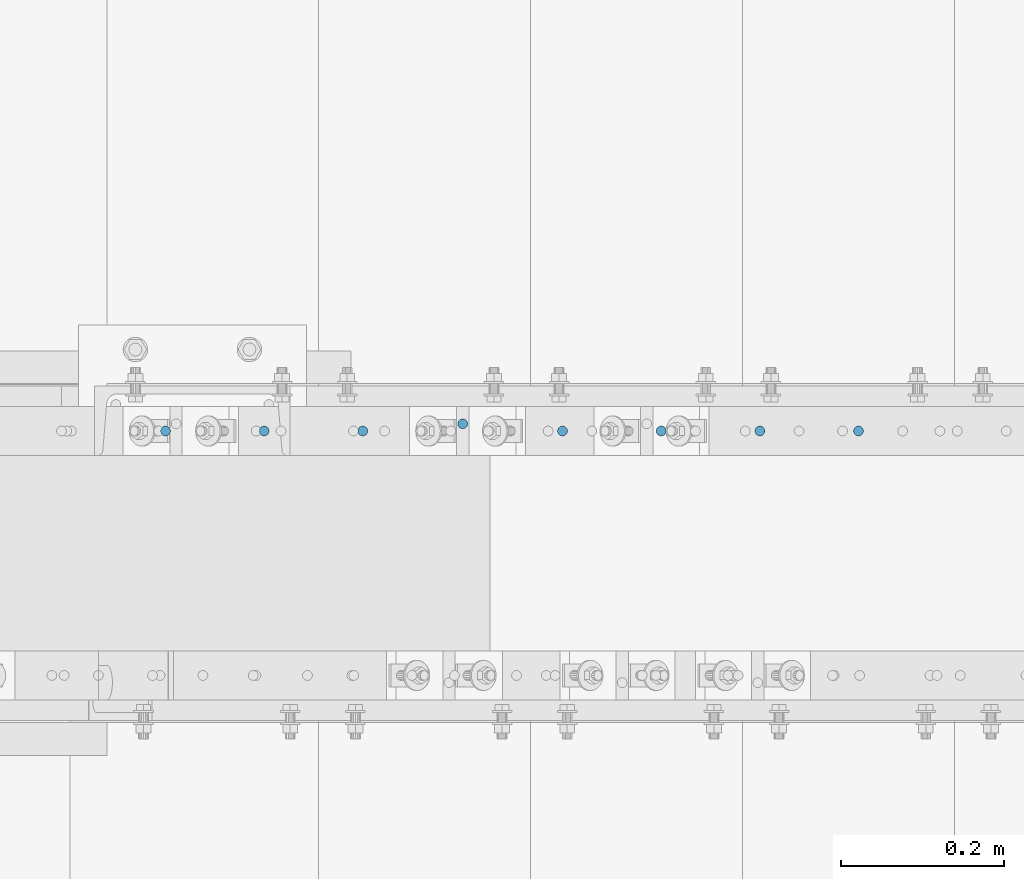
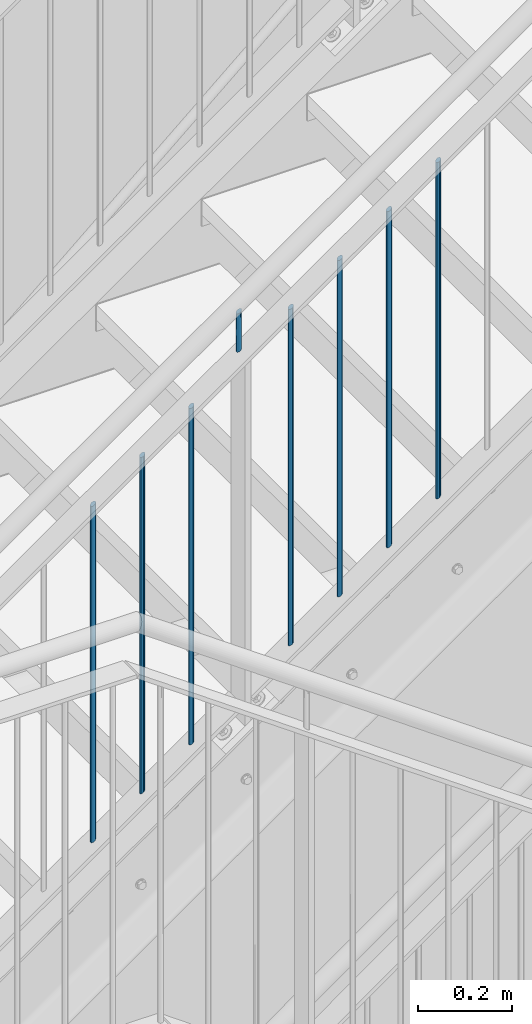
# One storey, part 44 of 831: 8 columns.
"""IFC2X3 building model written with IfcOpenShell, lengths in millimetres."""

import ifcopenshell
import ifcopenshell.guid

model = None  # the IFC model being written
_history = None  # IfcOwnerHistory: only IFC2X3 demands one
_inside = {}  # id of a spatial element -> (the spatial element, [elements in it])
_under = {}  # id of a project, library or spatial element -> (it, [spatial elements below it])
_declared = {}  # id of a project -> (the project, [libraries it declares])
_typed = {}  # id of a type object -> (the type object, [elements of that type])
_made_of = {}  # id of a material, layer set ... -> (it, [elements and type objects made of it])


def new_model(schema):
    """Start an empty IFC model of exactly this schema.

    Asked for "IFC4X3", IfcOpenShell would pick the latest addendum, in which some entities
    have other attributes; the version numbers below select the first issue.
    IFC2X3 requires an IfcOwnerHistory on every rooted entity: one is made here for all.
    """
    global model, _history
    if schema == "IFC4X3":
        model = ifcopenshell.file(schema_version=(4, 3, 0, 0))
    else:
        model = ifcopenshell.file(schema=schema)
    _inside.clear()
    _under.clear()
    _declared.clear()
    _typed.clear()
    _made_of.clear()
    _history = None
    if model.schema == "IFC2X3":
        org = make("IfcOrganization", Name="unknown")
        user = make(
            "IfcPersonAndOrganization",
            ThePerson=make("IfcPerson", FamilyName="unknown"),
            TheOrganization=org,
        )
        app = make(
            "IfcApplication",
            ApplicationDeveloper=org,
            Version="unknown",
            ApplicationFullName="unknown",
            ApplicationIdentifier="unknown",
        )
        _history = make(
            "IfcOwnerHistory",
            OwningUser=user,
            OwningApplication=app,
            ChangeAction="ADDED",
            CreationDate=0,
        )
    return model


def make(cls, **values):
    """One entity of the class cls with the attributes given. An attribute that is None is left unset."""
    return model.create_entity(
        cls, **{name: value for name, value in values.items() if value is not None}
    )


def entity(cls, *values):
    """Any entity or typed value of the class cls, its attributes in the order of the schema. None: left unset."""
    e = model.create_entity(cls)
    for i, value in enumerate(values):
        if value is not None:
            e[i] = value
    return e


def rooted(cls, **values):
    """An entity with a GlobalId (a new one), such as an element, a storey or a relation."""
    return make(cls, GlobalId=ifcopenshell.guid.new(), OwnerHistory=_history, **values)


def si_unit(unit_type, name, prefix=None):
    """IfcSIUnit, for example si_unit("LENGTHUNIT", "METRE", prefix="MILLI")."""
    return make("IfcSIUnit", UnitType=unit_type, Prefix=prefix, Name=name)


def converted_unit(unit_type, name, factor, base, dimensions=None, offset=None):
    """IfcConversionBasedUnit, such as the inch: factor (a typed value) times the base unit."""
    return make(
        "IfcConversionBasedUnit"
        if offset is None
        else "IfcConversionBasedUnitWithOffset",
        ConversionOffset=offset,
        Dimensions=None
        if dimensions is None
        else entity("IfcDimensionalExponents", *dimensions),
        UnitType=unit_type,
        Name=name,
        ConversionFactor=make(
            "IfcMeasureWithUnit", ValueComponent=factor, UnitComponent=base
        ),
    )


def assignment(units):
    """IfcUnitAssignment: the units of a project."""
    return None if units is None else make("IfcUnitAssignment", Units=units)


def point(xyz):
    """IfcCartesianPoint."""
    return None if xyz is None else make("IfcCartesianPoint", Coordinates=xyz)


def direction(xyz):
    """IfcDirection."""
    return None if xyz is None else make("IfcDirection", DirectionRatios=xyz)


def frame(location, z_axis=None, x_axis=None):
    """IfcAxis2Placement3D, a coordinate frame: its origin and axes. An axis left out is left unset."""
    return make(
        "IfcAxis2Placement3D",
        Location=point(location),
        Axis=direction(z_axis),
        RefDirection=direction(x_axis),
    )


def frame_2d(location, x_axis=None):
    """IfcAxis2Placement2D, a coordinate frame in the plane: its origin and x axis."""
    return make(
        "IfcAxis2Placement2D", Location=point(location), RefDirection=direction(x_axis)
    )


def origin():
    """The frame at (0, 0, 0) with its axes left unset."""
    return frame((0.0, 0.0, 0.0))


def origin_with_axes():
    """The frame at (0, 0, 0) with the z axis (0, 0, 1) and the x axis (1, 0, 0) written out."""
    return frame((0.0, 0.0, 0.0), z_axis=(0.0, 0.0, 1.0), x_axis=(1.0, 0.0, 0.0))


def origin_2d():
    """The frame at (0, 0) in the plane with its x axis left unset."""
    return frame_2d((0.0, 0.0))


def place(relative_to, where):
    """IfcLocalPlacement: puts the frame where relative to a parent placement (None: the world)."""
    return make(
        "IfcLocalPlacement", PlacementRelTo=relative_to, RelativePlacement=where
    )


def context(
    kind, dimensions, precision=None, world=None, true_north=None, identifier=None
):
    """IfcGeometricRepresentationContext, for example the 3D "Model" context."""
    return make(
        "IfcGeometricRepresentationContext",
        ContextIdentifier=identifier,
        ContextType=kind,
        CoordinateSpaceDimension=dimensions,
        Precision=precision,
        WorldCoordinateSystem=world,
        TrueNorth=true_north,
    )


def project(units=None, contexts=None):
    """IfcProject with its units and contexts."""
    return rooted(
        "IfcProject",
        Name="project",
        RepresentationContexts=contexts,
        UnitsInContext=assignment(units),
    )


def spatial(cls, under=None, at=None, **own):
    """A site, building, storey or space (cls), placed at a placement, below another one or the project."""
    s = rooted(cls, ObjectPlacement=at, **own)
    if under is not None:
        _under.setdefault(under.id(), (under, []))[1].append(s)
    return s


def profile(cls, at=None, kind="AREA", **sizes):
    """A parametric profile (cls). Its sizes go by their IFC names, for example OverallWidth=200.0."""
    return make(cls, ProfileType=kind, Position=at, **sizes)


def circle(**sizes):
    """IfcCircleProfileDef."""
    return profile("IfcCircleProfileDef", **sizes)


def extrude(swept, where, along, depth):
    """IfcExtrudedAreaSolid: the profile swept, set in the frame where, extruded along a direction by depth."""
    return make(
        "IfcExtrudedAreaSolid",
        SweptArea=swept,
        Position=where,
        ExtrudedDirection=direction(along),
        Depth=depth,
    )


def clip(a, b, op="DIFFERENCE"):
    """IfcBooleanClippingResult: the solid a cut by the half space b."""
    return make(
        "IfcBooleanClippingResult", Operator=op, FirstOperand=a, SecondOperand=b
    )


def halfspace(plane, agree):
    """IfcHalfSpaceSolid: all space on one side of the plane z = 0 of the frame plane."""
    return make(
        "IfcHalfSpaceSolid",
        BaseSurface=make("IfcPlane", Position=plane),
        AgreementFlag=agree,
    )


def shape(context_of_items, identifier, shape_type, items):
    """IfcShapeRepresentation: the items that make up one representation, for example the "Body"."""
    return make(
        "IfcShapeRepresentation",
        ContextOfItems=context_of_items,
        RepresentationIdentifier=identifier,
        RepresentationType=shape_type,
        Items=items,
    )


def material(Name=None, Category=None):
    """IfcMaterial."""
    return make("IfcMaterial", Name=Name, Category=Category)


def made_of(thing, what):
    """Note that an element or type object is made of a material, layer set ...; save() writes the relation."""
    if what is not None:
        _made_of.setdefault(what.id(), (what, []))[1].append(thing)
    return thing


def element(
    cls,
    number,
    at=None,
    inside=None,
    cuts=None,
    type_object=None,
    material=None,
    context=None,
    identifier="Body",
    shape_type=None,
    held_by="IfcProductDefinitionShape",
    body=None,
    shapes=None,
    **own,
):
    """One element of the class cls, such as IfcWall. Its Tag is "e" and its number.

    at: its placement. inside: the storey or other place that contains it. cuts: it is an
    opening in that element (IfcRelVoidsElement). A single representation is given by context,
    identifier, shape_type and body (its items); several are given by shapes. held_by: the class
    of the entity that holds the representations. save() writes the other relations.
    """
    e = rooted(cls, Tag="e%d" % number, ObjectPlacement=at, **own)
    if body is not None:
        shapes = [shape(context, identifier, shape_type, body)]
    if shapes is not None:
        e.Representation = make(held_by, Representations=shapes)
    if inside is not None:
        _inside.setdefault(inside.id(), (inside, []))[1].append(e)
    if cuts is not None:
        rooted(
            "IfcRelVoidsElement", RelatingBuildingElement=cuts, RelatedOpeningElement=e
        )
    if type_object is not None:
        _typed.setdefault(type_object.id(), (type_object, []))[1].append(e)
    return made_of(e, material)


def aggregate(whole, parts):
    """IfcRelAggregates: a whole, such as a stair, and the parts it consists of."""
    return rooted("IfcRelAggregates", RelatingObject=whole, RelatedObjects=parts)


def save(model, path):
    """Write the relations noted so far, then the file.

    IfcRelAggregates (storeys below a building ...), IfcRelContainedInSpatialStructure (elements
    in a storey), IfcRelDefinesByType, IfcRelAssociatesMaterial and IfcRelDeclares: one each for
    every whole, place, type object, material and project.
    """
    for whole, parts in _under.values():
        aggregate(whole, parts)
    for where, things in _inside.values():
        rooted(
            "IfcRelContainedInSpatialStructure",
            RelatedElements=things,
            RelatingStructure=where,
        )
    for kind, things in _typed.values():
        rooted("IfcRelDefinesByType", RelatedObjects=things, RelatingType=kind)
    for what, things in _made_of.values():
        rooted("IfcRelAssociatesMaterial", RelatedObjects=things, RelatingMaterial=what)
    for by, libraries in _declared.values():
        rooted("IfcRelDeclares", RelatingContext=by, RelatedDefinitions=libraries)
    model.write(path)


model = new_model("IFC2X3")

# Units and contexts
model_context = context("Model", 3, precision=1e-09, world=origin_with_axes())
ifc_project = project(units=[si_unit("LENGTHUNIT", "METRE", prefix="MILLI"), si_unit("AREAUNIT", "SQUARE_METRE"), si_unit("VOLUMEUNIT", "CUBIC_METRE"), converted_unit("PLANEANGLEUNIT", "DEGREE", entity("IfcPlaneAngleMeasure", 0.01745329), si_unit("PLANEANGLEUNIT", "RADIAN"), dimensions=[0, 0, 0, 0, 0, 0, 0])], contexts=[model_context])

# Site, building, storey
site_placement = place(None, origin_with_axes())
site = spatial("IfcSite", under=ifc_project, at=site_placement, Name="Site", CompositionType="ELEMENT")
building_placement = place(site_placement, origin_with_axes())
building = spatial("IfcBuilding", under=site, at=building_placement, Name="Struktur 1", CompositionType="ELEMENT")
storey_placement = place(building_placement, origin_with_axes())
storey = spatial("IfcBuildingStorey", under=building, at=storey_placement, Name="Default Storey", CompositionType="ELEMENT", Elevation=0.0)

# Columns
ifc_material = material(Name="S235JR")
column_1_placement = place(None, frame((5308.631291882, 6091.736971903, 5092.583912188), z_axis=(0.0, 0.0, 1.0), x_axis=(1.0, 0.0, 0.0)))
element("IfcColumn", 1, at=column_1_placement, inside=storey, material=ifc_material, Name="Railing_Picket_Stair#4", ObjectType="Railing_Picket_Stair#4", context=model_context, shape_type="Clipping", body=[
    clip(clip(extrude(circle(Radius=6.0, at=origin_2d()), origin(), (0.0, 0.0, -1.0), 897.037988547), halfspace(frame((-5943.817626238, -6091.736971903, -4189.093992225), z_axis=(0.575128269, 0.0, -0.818063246), x_axis=(0.0, 1.0, 0.0)), True)), halfspace(frame((-5531.530458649, -6091.736971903, -4775.531829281), z_axis=(-0.575128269, 0.0, 0.818063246), x_axis=(0.0, -1.0, 0.0)), True)),
])
column_2_placement = place(None, frame((5429.715764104, 6091.736971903, 5177.710708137), z_axis=(0.0, 0.0, 1.0), x_axis=(1.0, 0.0, 0.0)))
element("IfcColumn", 2, at=column_2_placement, inside=storey, material=ifc_material, Name="Railing_Picket_Stair#5", ObjectType="Railing_Picket_Stair#5", context=model_context, shape_type="Clipping", body=[
    clip(clip(extrude(circle(Radius=6.0, at=origin_2d()), origin(), (0.0, 0.0, -1.0), 897.037988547), halfspace(frame((-6064.90209846, -6091.736971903, -4274.220788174), z_axis=(0.575128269, 0.0, -0.818063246), x_axis=(0.0, 1.0, 0.0)), True)), halfspace(frame((-5652.614930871, -6091.736971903, -4860.65862523), z_axis=(-0.575128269, 0.0, 0.818063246), x_axis=(0.0, -1.0, 0.0)), True)),
])
column_3_placement = place(None, frame((5550.800236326, 6091.736971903, 5262.837504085), z_axis=(0.0, 0.0, 1.0), x_axis=(1.0, 0.0, 0.0)))
element("IfcColumn", 3, at=column_3_placement, inside=storey, material=ifc_material, Name="Railing_Picket_Stair#6", ObjectType="Railing_Picket_Stair#6", context=model_context, shape_type="Clipping", body=[
    clip(clip(extrude(circle(Radius=6.0, at=origin_2d()), origin(), (0.0, 0.0, -1.0), 897.037988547), halfspace(frame((-6185.986570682, -6091.736971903, -4359.347584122), z_axis=(0.575128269, 0.0, -0.818063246), x_axis=(0.0, 1.0, 0.0)), True)), halfspace(frame((-5773.699403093, -6091.736971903, -4945.785421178), z_axis=(-0.575128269, 0.0, 0.818063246), x_axis=(0.0, -1.0, 0.0)), True)),
])
column_4_placement = place(None, frame((5795.960236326, 6091.736971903, 5435.193917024), z_axis=(0.0, 0.0, 1.0), x_axis=(1.0, 0.0, 0.0)))
element("IfcColumn", 4, at=column_4_placement, inside=storey, material=ifc_material, Name="Railing_Picket_Stair#7", ObjectType="Railing_Picket_Stair#7", context=model_context, shape_type="Clipping", body=[
    clip(clip(extrude(circle(Radius=6.0, at=origin_2d()), origin(), (0.0, 0.0, -1.0), 897.037988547), halfspace(frame((-6431.146570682, -6091.736971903, -4531.70399706), z_axis=(0.575128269, 0.0, -0.818063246), x_axis=(0.0, 1.0, 0.0)), True)), halfspace(frame((-6018.859403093, -6091.736971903, -5118.141834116), z_axis=(-0.575128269, 0.0, 0.818063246), x_axis=(0.0, -1.0, 0.0)), True)),
])
column_5_placement = place(None, frame((5917.044708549, 6091.736971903, 5520.320712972), z_axis=(0.0, 0.0, 1.0), x_axis=(1.0, 0.0, 0.0)))
element("IfcColumn", 5, at=column_5_placement, inside=storey, material=ifc_material, Name="Railing_Picket_Stair#8", ObjectType="Railing_Picket_Stair#8", context=model_context, shape_type="Clipping", body=[
    clip(clip(extrude(circle(Radius=6.0, at=origin_2d()), origin(), (0.0, 0.0, -1.0), 897.037988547), halfspace(frame((-6552.231042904, -6091.736971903, -4616.830793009), z_axis=(0.575128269, 0.0, -0.818063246), x_axis=(0.0, 1.0, 0.0)), True)), halfspace(frame((-6139.943875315, -6091.736971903, -5203.268630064), z_axis=(-0.575128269, 0.0, 0.818063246), x_axis=(0.0, -1.0, 0.0)), True)),
])
column_6_placement = place(None, frame((6038.129180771, 6091.736971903, 5605.447508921), z_axis=(0.0, 0.0, 1.0), x_axis=(1.0, 0.0, 0.0)))
element("IfcColumn", 6, at=column_6_placement, inside=storey, material=ifc_material, Name="Railing_Picket_Stair#9", ObjectType="Railing_Picket_Stair#9", context=model_context, shape_type="Clipping", body=[
    clip(clip(extrude(circle(Radius=6.0, at=origin_2d()), origin(), (0.0, 0.0, -1.0), 897.037988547), halfspace(frame((-6673.315515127, -6091.736971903, -4701.957588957), z_axis=(0.575128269, 0.0, -0.818063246), x_axis=(0.0, 1.0, 0.0)), True)), halfspace(frame((-6261.028347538, -6091.736971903, -5288.395426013), z_axis=(-0.575128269, 0.0, 0.818063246), x_axis=(0.0, -1.0, 0.0)), True)),
])
column_7_placement = place(None, frame((6159.213652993, 6091.736971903, 5690.574304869), z_axis=(0.0, 0.0, 1.0), x_axis=(1.0, 0.0, 0.0)))
element("IfcColumn", 7, at=column_7_placement, inside=storey, material=ifc_material, Name="Railing_Picket_Stair#10", ObjectType="Railing_Picket_Stair#10", context=model_context, shape_type="Clipping", body=[
    clip(clip(extrude(circle(Radius=6.0, at=origin_2d()), origin(), (0.0, 0.0, -1.0), 897.037988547), halfspace(frame((-6794.399987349, -6091.736971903, -4787.084384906), z_axis=(0.575128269, 0.0, -0.818063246), x_axis=(0.0, 1.0, 0.0)), True)), halfspace(frame((-6382.11281976, -6091.736971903, -5373.522221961), z_axis=(-0.575128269, 0.0, 0.818063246), x_axis=(0.0, -1.0, 0.0)), True)),
])
column_8_placement = place(None, frame((5673.380236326, 6100.536971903, 5461.239704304), z_axis=(0.0, 0.0, 1.0), x_axis=(0.0, -1.0, 0.0)))
element("IfcColumn", 8, at=column_8_placement, inside=storey, material=ifc_material, Name="Bar#1", ObjectType="Bar#1", context=model_context, shape_type="Clipping", body=[
    clip(clip(extrude(circle(Radius=6.0, at=origin_2d()), origin(), (0.0, 0.0, -1.0), 120.744805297), halfspace(frame((6100.536971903, -6314.319003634, -4549.56751576), z_axis=(0.0, -0.575128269, 0.818063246), x_axis=(1.0, 0.0, 0.0)), True)), halfspace(frame((6100.536971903, -6361.366983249, -4482.646404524), z_axis=(0.0, 0.575128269, -0.818063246), x_axis=(-1.0, 0.0, 0.0)), True)),
])

save(model, "model.ifc")
